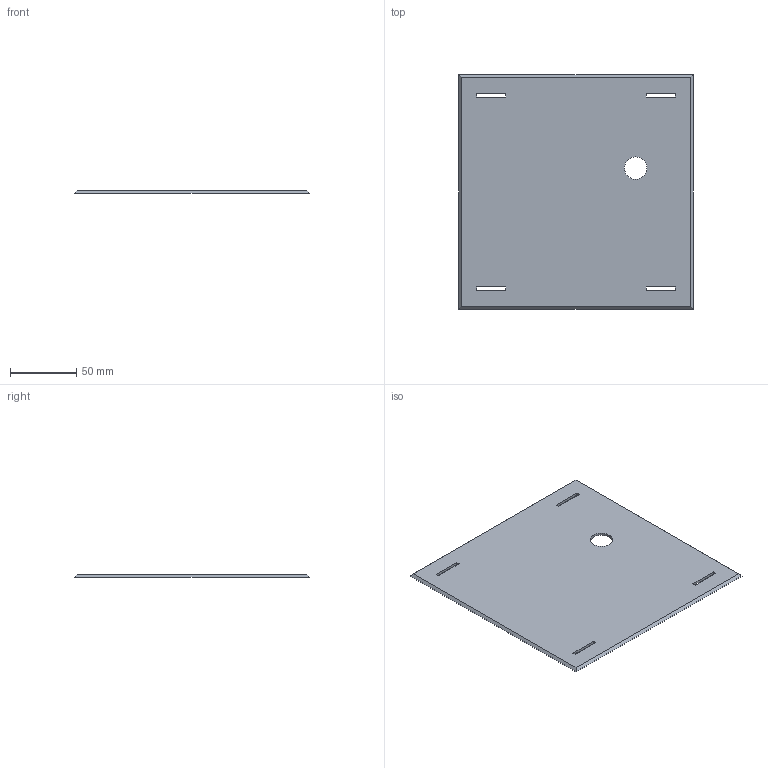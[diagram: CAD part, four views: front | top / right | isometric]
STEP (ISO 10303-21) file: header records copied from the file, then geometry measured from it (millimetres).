
FILE_DESCRIPTION (( 'STEP AP214' ), '1' );
FILE_NAME ('SC69.STEP', '2016-02-27T09:41:02', ( '' ), ( '' ), 'SwSTEP 2.0', 'SolidWorks 2012', '' );
FILE_SCHEMA (( 'AUTOMOTIVE_DESIGN' ));
Length unit declared in the file: millimetre
Products named in the file (1): SC69
Bounding box: 177 x 177 x 2 mm (x, y, z)
Volume: 60376.3 mm3; surface area: 62858.8 mm2
Topology: 1 solids, 1 shells, 24 faces, 66 edges, 44 vertices
Faces by surface type: plane 22, cylinder 2
Entity records: 808 total; most frequent: CARTESIAN_POINT 135, ORIENTED_EDGE 132, DIRECTION 120, EDGE_CURVE 66, LINE 62, VECTOR 62, VERTEX_POINT 44, EDGE_LOOP 34
